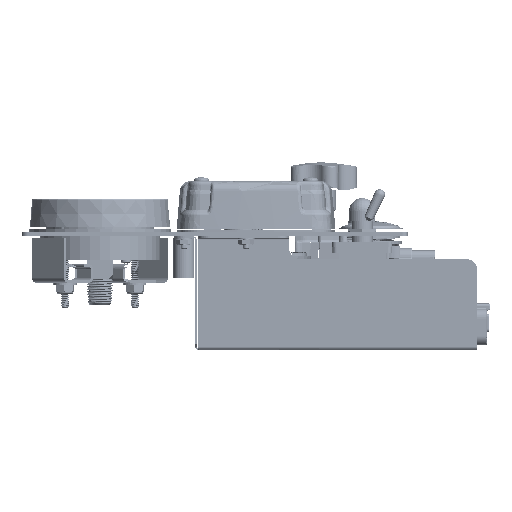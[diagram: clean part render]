
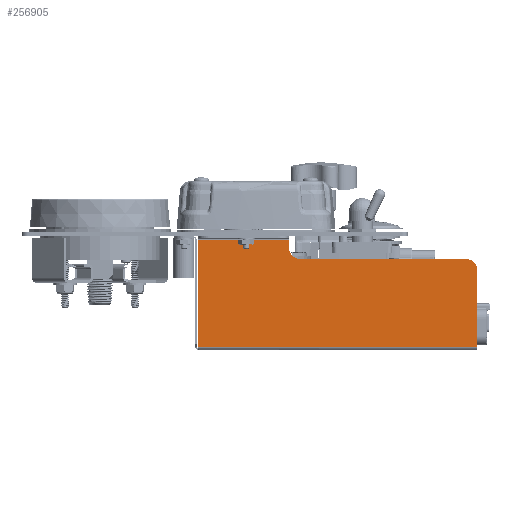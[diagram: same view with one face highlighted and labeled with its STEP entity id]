
A CAD part, left-side view. The second image highlights one B-rep face of the part: STEP entity #256905.
In plain terms, the highlighted planar face has unit normal (-1, 0, 0).
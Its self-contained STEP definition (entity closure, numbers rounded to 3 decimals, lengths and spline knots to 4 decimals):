
#10589 = VECTOR ( 'NONE', #255715, 39.3701 ) ;
#21175 = VERTEX_POINT ( 'NONE', #187076 ) ;
#21665 = AXIS2_PLACEMENT_3D ( 'NONE', #257310, #227258, #307753 ) ;
#22877 = ORIENTED_EDGE ( 'NONE', *, *, #193867, .T. ) ;
#24839 = LINE ( 'NONE', #193331, #126131 ) ;
#33021 = ORIENTED_EDGE ( 'NONE', *, *, #214668, .T. ) ;
#61866 = CIRCLE ( 'NONE', #136905, 0.25 ) ;
#65740 = ORIENTED_EDGE ( 'NONE', *, *, #320538, .T. ) ;
#65863 = LINE ( 'NONE', #141450, #90910 ) ;
#71203 = CARTESIAN_POINT ( 'NONE',  ( -3.0695, -5.5394, -0.75 ) ) ;
#72868 = DIRECTION ( 'NONE',  ( 0., -1., 0. ) ) ;
#90910 = VECTOR ( 'NONE', #91067, 39.3701 ) ;
#91067 = DIRECTION ( 'NONE',  ( 0., 1., 0. ) ) ;
#95922 = DIRECTION ( 'NONE',  ( 1., 0., 0. ) ) ;
#103904 = VERTEX_POINT ( 'NONE', #226852 ) ;
#104740 = CARTESIAN_POINT ( 'NONE',  ( -3.0695, -5.5394, -0.5 ) ) ;
#107618 = CARTESIAN_POINT ( 'NONE',  ( -3.0695, -5.5394, -0.5 ) ) ;
#126131 = VECTOR ( 'NONE', #127263, 39.3701 ) ;
#127263 = DIRECTION ( 'NONE',  ( 0., 1., 0. ) ) ;
#133659 = EDGE_CURVE ( 'NONE', #221239, #155875, #259021, .T. ) ;
#136905 = AXIS2_PLACEMENT_3D ( 'NONE', #71203, #299461, #72868 ) ;
#140473 = LINE ( 'NONE', #220832, #226290 ) ;
#141450 = CARTESIAN_POINT ( 'NONE',  ( -3.0695, -5.7894, -2.429 ) ) ;
#143102 = ORIENTED_EDGE ( 'NONE', *, *, #133659, .F. ) ;
#146083 = EDGE_CURVE ( 'NONE', #247945, #103904, #190369, .T. ) ;
#153550 = CARTESIAN_POINT ( 'NONE',  ( -3.0695, 0.3653, -2.429 ) ) ;
#153780 = VERTEX_POINT ( 'NONE', #107618 ) ;
#155875 = VERTEX_POINT ( 'NONE', #214561 ) ;
#160471 = VERTEX_POINT ( 'NONE', #163651 ) ;
#163651 = CARTESIAN_POINT ( 'NONE',  ( -3.0695, -1.8847, -0.5 ) ) ;
#165273 = CARTESIAN_POINT ( 'NONE',  ( -3.0695, -5.7894, -2.429 ) ) ;
#165302 = DIRECTION ( 'NONE',  ( 0., 0., 1. ) ) ;
#169406 = ORIENTED_EDGE ( 'NONE', *, *, #263211, .T. ) ;
#180290 = FACE_OUTER_BOUND ( 'NONE', #288350, .T. ) ;
#183089 = CARTESIAN_POINT ( 'NONE',  ( -3.0695, 0.3653, -2.429 ) ) ;
#186399 = ORIENTED_EDGE ( 'NONE', *, *, #146083, .T. ) ;
#187076 = CARTESIAN_POINT ( 'NONE',  ( -3.0695, -5.7894, -0.75 ) ) ;
#187804 = ORIENTED_EDGE ( 'NONE', *, *, #246248, .T. ) ;
#190369 = LINE ( 'NONE', #294291, #231048 ) ;
#193331 = CARTESIAN_POINT ( 'NONE',  ( -3.0695, -1.6347, -0.071 ) ) ;
#193867 = EDGE_CURVE ( 'NONE', #160471, #247945, #286590, .T. ) ;
#198239 = DIRECTION ( 'NONE',  ( 0., 0., -1. ) ) ;
#200896 = AXIS2_PLACEMENT_3D ( 'NONE', #226671, #95922, #198239 ) ;
#205399 = PLANE ( 'NONE',  #21665 ) ;
#207037 = LINE ( 'NONE', #104740, #221522 ) ;
#210769 = VERTEX_POINT ( 'NONE', #165273 ) ;
#214561 = CARTESIAN_POINT ( 'NONE',  ( -3.0695, 0.3653, -0.071 ) ) ;
#214668 = EDGE_CURVE ( 'NONE', #210769, #21175, #140473, .T. ) ;
#220832 = CARTESIAN_POINT ( 'NONE',  ( -3.0695, -5.7894, -2.429 ) ) ;
#221239 = VERTEX_POINT ( 'NONE', #183089 ) ;
#221522 = VECTOR ( 'NONE', #277565, 39.3701 ) ;
#226290 = VECTOR ( 'NONE', #323296, 39.3701 ) ;
#226671 = CARTESIAN_POINT ( 'NONE',  ( -3.0695, -1.8847, -0.25 ) ) ;
#226852 = CARTESIAN_POINT ( 'NONE',  ( -3.0695, -1.6347, -0.071 ) ) ;
#227258 = DIRECTION ( 'NONE',  ( -1., 0., 0. ) ) ;
#231048 = VECTOR ( 'NONE', #165302, 39.3701 ) ;
#240186 = ORIENTED_EDGE ( 'NONE', *, *, #311004, .F. ) ;
#246248 = EDGE_CURVE ( 'NONE', #103904, #155875, #24839, .T. ) ;
#247945 = VERTEX_POINT ( 'NONE', #257341 ) ;
#255715 = DIRECTION ( 'NONE',  ( 0., 0., 1. ) ) ;
#256905 = ADVANCED_FACE ( 'NONE', ( #180290 ), #205399, .T. ) ;
#257310 = CARTESIAN_POINT ( 'NONE',  ( -3.0695, -4.327, -2.5 ) ) ;
#257341 = CARTESIAN_POINT ( 'NONE',  ( -3.0695, -1.6347, -0.25 ) ) ;
#259021 = LINE ( 'NONE', #153550, #10589 ) ;
#263211 = EDGE_CURVE ( 'NONE', #21175, #153780, #61866, .T. ) ;
#277565 = DIRECTION ( 'NONE',  ( 0., 1., 0. ) ) ;
#286590 = CIRCLE ( 'NONE', #200896, 0.25 ) ;
#288350 = EDGE_LOOP ( 'NONE', ( #187804, #143102, #240186, #33021, #169406, #65740, #22877, #186399 ) ) ;
#294291 = CARTESIAN_POINT ( 'NONE',  ( -3.0695, -1.6347, -0.25 ) ) ;
#299461 = DIRECTION ( 'NONE',  ( -1., 0., 0. ) ) ;
#307753 = DIRECTION ( 'NONE',  ( 0., 1., 0. ) ) ;
#311004 = EDGE_CURVE ( 'NONE', #210769, #221239, #65863, .T. ) ;
#320538 = EDGE_CURVE ( 'NONE', #153780, #160471, #207037, .T. ) ;
#323296 = DIRECTION ( 'NONE',  ( 0., 0., 1. ) ) ;
